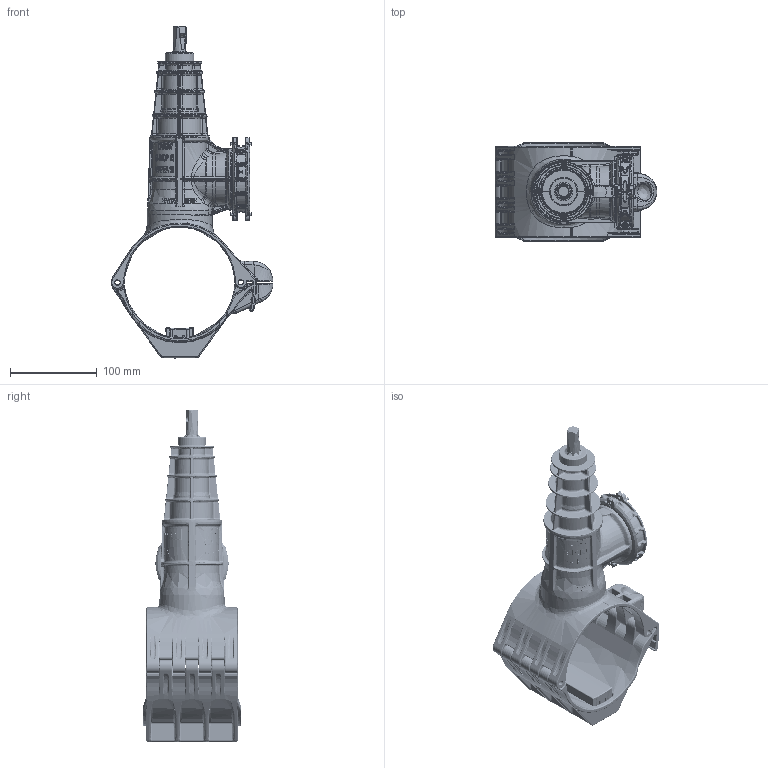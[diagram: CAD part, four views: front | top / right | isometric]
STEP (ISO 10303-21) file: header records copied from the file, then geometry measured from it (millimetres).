
FILE_DESCRIPTION(('STEP AP214'),'1');
FILE_NAME('711519.stp','2019-04-05T10:28:02',('CAD-PIM'),('TransMagic, Inc.'),'TMR12sp0','TransMagic R12',' ');
FILE_SCHEMA(('AUTOMOTIVE_DESIGN'));
Length unit declared in the file: millimetre
Products named in the file (1): 711519 (1)
Bounding box: 186.68 x 113 x 382.6 mm (x, y, z)
Volume: 1012131.8 mm3; surface area: 233530.1 mm2
Topology: 1 solids, 1 shells, 5148 faces, 13053 edges, 7741 vertices
Faces by surface type: bspline 5148
Entity records: 379724 total; most frequent: CARTESIAN_POINT 143320, STYLED_ITEM 25671, PRESENTATION_STYLE_ASSIGNMENT 25671, COLOUR_RGB 25671, ORIENTED_EDGE 25562, EDGE_CURVE 12781, CURVE_STYLE 12781, DRAUGHTING_PRE_DEFINED_CURVE_FONT 12781
